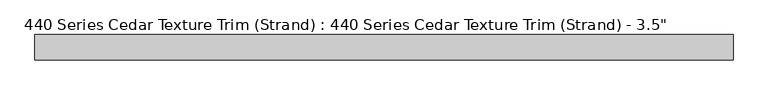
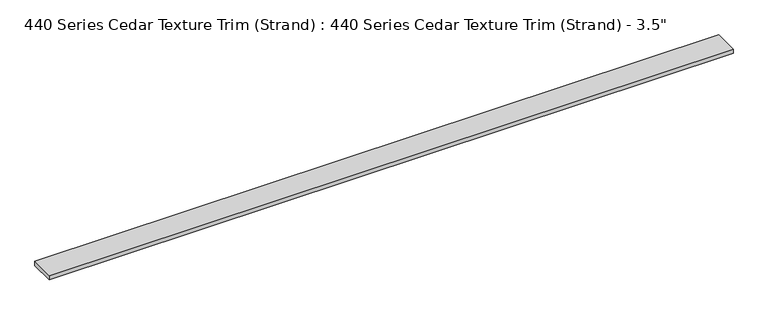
"""IFC4 building model written with IfcOpenShell, lengths in millimetres: proxy geometry."""

import ifcopenshell
import ifcopenshell.guid

model = None  # the IFC model being written
_history = None  # IfcOwnerHistory: only IFC2X3 demands one
_inside = {}  # id of a spatial element -> (the spatial element, [elements in it])
_under = {}  # id of a project, library or spatial element -> (it, [spatial elements below it])
_declared = {}  # id of a project -> (the project, [libraries it declares])
_typed = {}  # id of a type object -> (the type object, [elements of that type])
_made_of = {}  # id of a material, layer set ... -> (it, [elements and type objects made of it])


def new_model(schema):
    """Start an empty IFC model of exactly this schema.

    Asked for "IFC4X3", IfcOpenShell would pick the latest addendum, in which some entities
    have other attributes; the version numbers below select the first issue.
    IFC2X3 requires an IfcOwnerHistory on every rooted entity: one is made here for all.
    """
    global model, _history
    if schema == "IFC4X3":
        model = ifcopenshell.file(schema_version=(4, 3, 0, 0))
    else:
        model = ifcopenshell.file(schema=schema)
    _inside.clear()
    _under.clear()
    _declared.clear()
    _typed.clear()
    _made_of.clear()
    _history = None
    if model.schema == "IFC2X3":
        org = make("IfcOrganization", Name="unknown")
        user = make(
            "IfcPersonAndOrganization",
            ThePerson=make("IfcPerson", FamilyName="unknown"),
            TheOrganization=org,
        )
        app = make(
            "IfcApplication",
            ApplicationDeveloper=org,
            Version="unknown",
            ApplicationFullName="unknown",
            ApplicationIdentifier="unknown",
        )
        _history = make(
            "IfcOwnerHistory",
            OwningUser=user,
            OwningApplication=app,
            ChangeAction="ADDED",
            CreationDate=0,
        )
    return model


def make(cls, **values):
    """One entity of the class cls with the attributes given. An attribute that is None is left unset."""
    return model.create_entity(
        cls, **{name: value for name, value in values.items() if value is not None}
    )


def rooted(cls, **values):
    """An entity with a GlobalId (a new one), such as an element, a storey or a relation."""
    return make(cls, GlobalId=ifcopenshell.guid.new(), OwnerHistory=_history, **values)


def si_unit(unit_type, name, prefix=None):
    """IfcSIUnit, for example si_unit("LENGTHUNIT", "METRE", prefix="MILLI")."""
    return make("IfcSIUnit", UnitType=unit_type, Prefix=prefix, Name=name)


def assignment(units):
    """IfcUnitAssignment: the units of a project."""
    return None if units is None else make("IfcUnitAssignment", Units=units)


def point(xyz):
    """IfcCartesianPoint."""
    return None if xyz is None else make("IfcCartesianPoint", Coordinates=xyz)


def direction(xyz):
    """IfcDirection."""
    return None if xyz is None else make("IfcDirection", DirectionRatios=xyz)


def frame(location, z_axis=None, x_axis=None):
    """IfcAxis2Placement3D, a coordinate frame: its origin and axes. An axis left out is left unset."""
    return make(
        "IfcAxis2Placement3D",
        Location=point(location),
        Axis=direction(z_axis),
        RefDirection=direction(x_axis),
    )


def origin():
    """The frame at (0, 0, 0) with its axes left unset."""
    return frame((0.0, 0.0, 0.0))


def origin_with_axes():
    """The frame at (0, 0, 0) with the z axis (0, 0, 1) and the x axis (1, 0, 0) written out."""
    return frame((0.0, 0.0, 0.0), z_axis=(0.0, 0.0, 1.0), x_axis=(1.0, 0.0, 0.0))


def place(relative_to, where):
    """IfcLocalPlacement: puts the frame where relative to a parent placement (None: the world)."""
    return make(
        "IfcLocalPlacement", PlacementRelTo=relative_to, RelativePlacement=where
    )


def context(
    kind, dimensions, precision=None, world=None, true_north=None, identifier=None
):
    """IfcGeometricRepresentationContext, for example the 3D "Model" context."""
    return make(
        "IfcGeometricRepresentationContext",
        ContextIdentifier=identifier,
        ContextType=kind,
        CoordinateSpaceDimension=dimensions,
        Precision=precision,
        WorldCoordinateSystem=world,
        TrueNorth=true_north,
    )


def project(units=None, contexts=None):
    """IfcProject with its units and contexts."""
    return rooted(
        "IfcProject",
        Name="project",
        RepresentationContexts=contexts,
        UnitsInContext=assignment(units),
    )


def spatial(cls, under=None, at=None, **own):
    """A site, building, storey or space (cls), placed at a placement, below another one or the project."""
    s = rooted(cls, ObjectPlacement=at, **own)
    if under is not None:
        _under.setdefault(under.id(), (under, []))[1].append(s)
    return s


def polyline(points):
    """IfcPolyline through the points."""
    return make("IfcPolyline", Points=[point(p) for p in points])


def outline(outer, holes=None, kind="AREA"):
    """IfcArbitraryClosedProfileDef: a profile drawn as a closed curve; with holes, ...WithVoids."""
    if holes is None:
        return make("IfcArbitraryClosedProfileDef", ProfileType=kind, OuterCurve=outer)
    return make(
        "IfcArbitraryProfileDefWithVoids",
        ProfileType=kind,
        OuterCurve=outer,
        InnerCurves=holes,
    )


def extrude(swept, where, along, depth):
    """IfcExtrudedAreaSolid: the profile swept, set in the frame where, extruded along a direction by depth."""
    return make(
        "IfcExtrudedAreaSolid",
        SweptArea=swept,
        Position=where,
        ExtrudedDirection=direction(along),
        Depth=depth,
    )


def shape(context_of_items, identifier, shape_type, items):
    """IfcShapeRepresentation: the items that make up one representation, for example the "Body"."""
    return make(
        "IfcShapeRepresentation",
        ContextOfItems=context_of_items,
        RepresentationIdentifier=identifier,
        RepresentationType=shape_type,
        Items=items,
    )


def source(mapping_origin, context_of_items, identifier, shape_type, items):
    """IfcRepresentationMap: a shape defined once, which mapped items show again and again."""
    return make(
        "IfcRepresentationMap",
        MappingOrigin=mapping_origin,
        MappedRepresentation=shape(context_of_items, identifier, shape_type, items),
    )


def transform(
    local_origin,
    x_axis=None,
    y_axis=None,
    z_axis=None,
    scale=None,
    scale2=None,
    scale3=None,
    uniform=True,
):
    """IfcCartesianTransformationOperator3D, or its non-uniform kind. x_axis, y_axis, z_axis: its Axis1, 2, 3."""
    if uniform:
        return make(
            "IfcCartesianTransformationOperator3D",
            Axis1=direction(x_axis),
            Axis2=direction(y_axis),
            LocalOrigin=point(local_origin),
            Scale=scale,
            Axis3=direction(z_axis),
        )
    return make(
        "IfcCartesianTransformationOperator3DnonUniform",
        Axis1=direction(x_axis),
        Axis2=direction(y_axis),
        LocalOrigin=point(local_origin),
        Scale=scale,
        Axis3=direction(z_axis),
        Scale2=scale2,
        Scale3=scale3,
    )


def mapped(mapping_source, mapping_target):
    """IfcMappedItem: shows the shape of a source again, moved by a transform."""
    return make(
        "IfcMappedItem", MappingSource=mapping_source, MappingTarget=mapping_target
    )


def made_of(thing, what):
    """Note that an element or type object is made of a material, layer set ...; save() writes the relation."""
    if what is not None:
        _made_of.setdefault(what.id(), (what, []))[1].append(thing)
    return thing


def element(
    cls,
    number,
    at=None,
    inside=None,
    cuts=None,
    type_object=None,
    material=None,
    context=None,
    identifier="Body",
    shape_type=None,
    held_by="IfcProductDefinitionShape",
    body=None,
    shapes=None,
    **own,
):
    """One element of the class cls, such as IfcWall. Its Tag is "e" and its number.

    at: its placement. inside: the storey or other place that contains it. cuts: it is an
    opening in that element (IfcRelVoidsElement). A single representation is given by context,
    identifier, shape_type and body (its items); several are given by shapes. held_by: the class
    of the entity that holds the representations. save() writes the other relations.
    """
    e = rooted(cls, Tag="e%d" % number, ObjectPlacement=at, **own)
    if body is not None:
        shapes = [shape(context, identifier, shape_type, body)]
    if shapes is not None:
        e.Representation = make(held_by, Representations=shapes)
    if inside is not None:
        _inside.setdefault(inside.id(), (inside, []))[1].append(e)
    if cuts is not None:
        rooted(
            "IfcRelVoidsElement", RelatingBuildingElement=cuts, RelatedOpeningElement=e
        )
    if type_object is not None:
        _typed.setdefault(type_object.id(), (type_object, []))[1].append(e)
    return made_of(e, material)


def aggregate(whole, parts):
    """IfcRelAggregates: a whole, such as a stair, and the parts it consists of."""
    return rooted("IfcRelAggregates", RelatingObject=whole, RelatedObjects=parts)


def save(model, path):
    """Write the relations noted so far, then the file.

    IfcRelAggregates (storeys below a building ...), IfcRelContainedInSpatialStructure (elements
    in a storey), IfcRelDefinesByType, IfcRelAssociatesMaterial and IfcRelDeclares: one each for
    every whole, place, type object, material and project.
    """
    for whole, parts in _under.values():
        aggregate(whole, parts)
    for where, things in _inside.values():
        rooted(
            "IfcRelContainedInSpatialStructure",
            RelatedElements=things,
            RelatingStructure=where,
        )
    for kind, things in _typed.values():
        rooted("IfcRelDefinesByType", RelatedObjects=things, RelatingType=kind)
    for what, things in _made_of.values():
        rooted("IfcRelAssociatesMaterial", RelatedObjects=things, RelatingMaterial=what)
    for by, libraries in _declared.values():
        rooted("IfcRelDeclares", RelatingContext=by, RelatedDefinitions=libraries)
    model.write(path)


def proxy_a594a765(model_context):
    return source(origin(), model_context, "Body", "SweptSolid", [
        extrude(outline(polyline([(2438.4, 0.0), (0.0, 0.0), (0.0, 88.9), (2438.4, 88.9), (2438.4, 0.0)])), origin_with_axes(), (0.0, 0.0, 1.0), 15.875),
    ])


if __name__ == "__main__":
    model = new_model("IFC4")
    model_context = context("Model", 3, world=origin())
    ifc_project = project(units=[si_unit("LENGTHUNIT", "METRE", prefix="MILLI")], contexts=[model_context])
    site = spatial("IfcSite", under=ifc_project)
    building = spatial("IfcBuilding", under=site)
    placement = place(None, origin())
    proxy_shape = proxy_a594a765(model_context)
    element("IfcBuildingElementProxy", 1, Name="440 Series Cedar Texture Trim (Strand) : 440 Series Cedar Texture Trim (Strand) - 3.5\"", ObjectType="440 Series Cedar Texture Trim (Strand) : 440 Series Cedar Texture Trim (Strand) - 3.5\"", at=placement, inside=building, context=model_context, shape_type="MappedRepresentation", body=[
        mapped(proxy_shape, transform((0.0, 0.0, 0.0), x_axis=(1.0, 0.0, 0.0), y_axis=(0.0, 1.0, 0.0), z_axis=(0.0, 0.0, 1.0))),
    ])
    save(model, "model.ifc")
